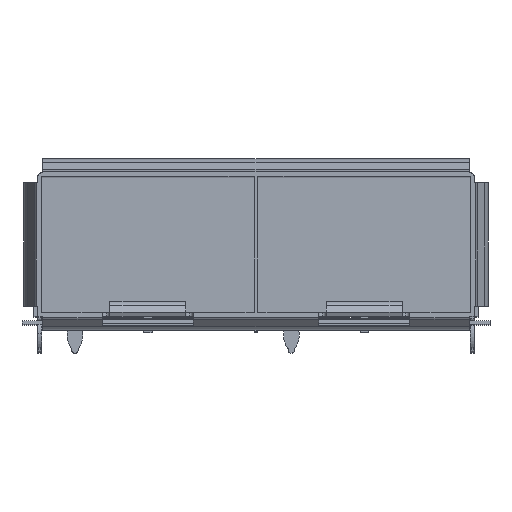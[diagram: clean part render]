
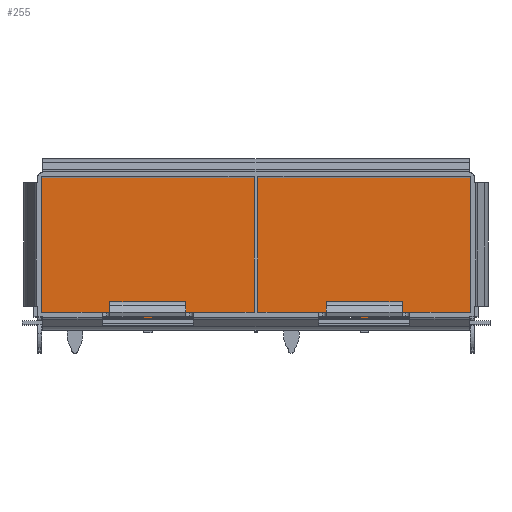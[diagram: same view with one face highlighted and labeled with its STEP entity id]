
A CAD part, top view. The second image highlights one B-rep face of the part: STEP entity #255.
In plain terms, the highlighted planar face has unit normal (0, 0, 1).
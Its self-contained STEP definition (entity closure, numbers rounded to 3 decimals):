
#255=ADVANCED_FACE('',(#959),#689,.F.);
#689=PLANE('',#8813);
#959=FACE_OUTER_BOUND('',#1390,.T.);
#1390=EDGE_LOOP('',(#2256,#2257,#2258,#2259,#2260,#2261,#2262,#2263,#2264,
#2265,#2266,#2267,#2268,#2269,#2270,#2271,#2272,#2273,#2274,#2275,#2276,
#2277,#2278,#2279,#2280,#2281,#2282,#2283,#2284,#2285));
#1874=CIRCLE('',#8807,0.05);
#1875=CIRCLE('',#8808,0.05);
#1876=CIRCLE('',#8809,0.2);
#1877=CIRCLE('',#8810,0.2);
#1878=CIRCLE('',#8811,0.2);
#1879=CIRCLE('',#8812,0.2);
#2256=ORIENTED_EDGE('',*,*,#5670,.F.);
#2257=ORIENTED_EDGE('',*,*,#5671,.F.);
#2258=ORIENTED_EDGE('',*,*,#5672,.T.);
#2259=ORIENTED_EDGE('',*,*,#5673,.T.);
#2260=ORIENTED_EDGE('',*,*,#5674,.T.);
#2261=ORIENTED_EDGE('',*,*,#5675,.T.);
#2262=ORIENTED_EDGE('',*,*,#5676,.F.);
#2263=ORIENTED_EDGE('',*,*,#5677,.F.);
#2264=ORIENTED_EDGE('',*,*,#5678,.F.);
#2265=ORIENTED_EDGE('',*,*,#5679,.T.);
#2266=ORIENTED_EDGE('',*,*,#5680,.T.);
#2267=ORIENTED_EDGE('',*,*,#5681,.T.);
#2268=ORIENTED_EDGE('',*,*,#5682,.T.);
#2269=ORIENTED_EDGE('',*,*,#5683,.F.);
#2270=ORIENTED_EDGE('',*,*,#5684,.F.);
#2271=ORIENTED_EDGE('',*,*,#5685,.F.);
#2272=ORIENTED_EDGE('',*,*,#5686,.F.);
#2273=ORIENTED_EDGE('',*,*,#5687,.F.);
#2274=ORIENTED_EDGE('',*,*,#5688,.T.);
#2275=ORIENTED_EDGE('',*,*,#5689,.F.);
#2276=ORIENTED_EDGE('',*,*,#5690,.F.);
#2277=ORIENTED_EDGE('',*,*,#5691,.F.);
#2278=ORIENTED_EDGE('',*,*,#5692,.T.);
#2279=ORIENTED_EDGE('',*,*,#5693,.F.);
#2280=ORIENTED_EDGE('',*,*,#5694,.F.);
#2281=ORIENTED_EDGE('',*,*,#5695,.F.);
#2282=ORIENTED_EDGE('',*,*,#5696,.F.);
#2283=ORIENTED_EDGE('',*,*,#5697,.F.);
#2284=ORIENTED_EDGE('',*,*,#5698,.T.);
#2285=ORIENTED_EDGE('',*,*,#5699,.F.);
#4820=VERTEX_POINT('',#12167);
#4821=VERTEX_POINT('',#12168);
#4822=VERTEX_POINT('',#12170);
#4823=VERTEX_POINT('',#12172);
#4824=VERTEX_POINT('',#12174);
#4825=VERTEX_POINT('',#12176);
#4826=VERTEX_POINT('',#12178);
#4827=VERTEX_POINT('',#12180);
#4828=VERTEX_POINT('',#12182);
#4829=VERTEX_POINT('',#12184);
#4830=VERTEX_POINT('',#12186);
#4831=VERTEX_POINT('',#12188);
#4832=VERTEX_POINT('',#12190);
#4833=VERTEX_POINT('',#12192);
#4834=VERTEX_POINT('',#12194);
#4835=VERTEX_POINT('',#12196);
#4836=VERTEX_POINT('',#12198);
#4837=VERTEX_POINT('',#12200);
#4838=VERTEX_POINT('',#12202);
#4839=VERTEX_POINT('',#12204);
#4840=VERTEX_POINT('',#12206);
#4841=VERTEX_POINT('',#12208);
#4842=VERTEX_POINT('',#12210);
#4843=VERTEX_POINT('',#12212);
#4844=VERTEX_POINT('',#12214);
#4845=VERTEX_POINT('',#12216);
#4846=VERTEX_POINT('',#12218);
#4847=VERTEX_POINT('',#12220);
#4848=VERTEX_POINT('',#12222);
#4849=VERTEX_POINT('',#12224);
#5670=EDGE_CURVE('',#4820,#4821,#6944,.T.);
#5671=EDGE_CURVE('',#4822,#4820,#6945,.T.);
#5672=EDGE_CURVE('',#4822,#4823,#6946,.T.);
#5673=EDGE_CURVE('',#4823,#4824,#6947,.T.);
#5674=EDGE_CURVE('',#4824,#4825,#1874,.T.);
#5675=EDGE_CURVE('',#4825,#4826,#6948,.T.);
#5676=EDGE_CURVE('',#4827,#4826,#6949,.T.);
#5677=EDGE_CURVE('',#4828,#4827,#6950,.T.);
#5678=EDGE_CURVE('',#4829,#4828,#6951,.T.);
#5679=EDGE_CURVE('',#4829,#4830,#6952,.T.);
#5680=EDGE_CURVE('',#4830,#4831,#1875,.T.);
#5681=EDGE_CURVE('',#4831,#4832,#6953,.T.);
#5682=EDGE_CURVE('',#4832,#4833,#6954,.T.);
#5683=EDGE_CURVE('',#4834,#4833,#6955,.T.);
#5684=EDGE_CURVE('',#4835,#4834,#1876,.T.);
#5685=EDGE_CURVE('',#4836,#4835,#6956,.T.);
#5686=EDGE_CURVE('',#4837,#4836,#1877,.T.);
#5687=EDGE_CURVE('',#4838,#4837,#6957,.T.);
#5688=EDGE_CURVE('',#4838,#4839,#6958,.T.);
#5689=EDGE_CURVE('',#4840,#4839,#6959,.T.);
#5690=EDGE_CURVE('',#4841,#4840,#6960,.T.);
#5691=EDGE_CURVE('',#4842,#4841,#6961,.T.);
#5692=EDGE_CURVE('',#4842,#4843,#6962,.T.);
#5693=EDGE_CURVE('',#4844,#4843,#6963,.T.);
#5694=EDGE_CURVE('',#4845,#4844,#1878,.T.);
#5695=EDGE_CURVE('',#4846,#4845,#6964,.T.);
#5696=EDGE_CURVE('',#4847,#4846,#1879,.T.);
#5697=EDGE_CURVE('',#4848,#4847,#6965,.T.);
#5698=EDGE_CURVE('',#4848,#4849,#6966,.T.);
#5699=EDGE_CURVE('',#4821,#4849,#6967,.T.);
#6944=LINE('',#12166,#7896);
#6945=LINE('',#12169,#7897);
#6946=LINE('',#12171,#7898);
#6947=LINE('',#12173,#7899);
#6948=LINE('',#12177,#7900);
#6949=LINE('',#12179,#7901);
#6950=LINE('',#12181,#7902);
#6951=LINE('',#12183,#7903);
#6952=LINE('',#12185,#7904);
#6953=LINE('',#12189,#7905);
#6954=LINE('',#12191,#7906);
#6955=LINE('',#12193,#7907);
#6956=LINE('',#12197,#7908);
#6957=LINE('',#12201,#7909);
#6958=LINE('',#12203,#7910);
#6959=LINE('',#12205,#7911);
#6960=LINE('',#12207,#7912);
#6961=LINE('',#12209,#7913);
#6962=LINE('',#12211,#7914);
#6963=LINE('',#12213,#7915);
#6964=LINE('',#12217,#7916);
#6965=LINE('',#12221,#7917);
#6966=LINE('',#12223,#7918);
#6967=LINE('',#12225,#7919);
#7896=VECTOR('',#9635,1.);
#7897=VECTOR('',#9636,1.);
#7898=VECTOR('',#9637,1.);
#7899=VECTOR('',#9638,1.);
#7900=VECTOR('',#9641,1.);
#7901=VECTOR('',#9642,1.);
#7902=VECTOR('',#9643,1.);
#7903=VECTOR('',#9644,1.);
#7904=VECTOR('',#9645,1.);
#7905=VECTOR('',#9648,1.);
#7906=VECTOR('',#9649,1.);
#7907=VECTOR('',#9650,1.);
#7908=VECTOR('',#9653,1.);
#7909=VECTOR('',#9656,1.);
#7910=VECTOR('',#9657,1.);
#7911=VECTOR('',#9658,1.);
#7912=VECTOR('',#9659,1.);
#7913=VECTOR('',#9660,1.);
#7914=VECTOR('',#9661,1.);
#7915=VECTOR('',#9662,1.);
#7916=VECTOR('',#9665,1.);
#7917=VECTOR('',#9668,1.);
#7918=VECTOR('',#9669,1.);
#7919=VECTOR('',#9670,1.);
#8807=AXIS2_PLACEMENT_3D('',#12175,#9639,#9640);
#8808=AXIS2_PLACEMENT_3D('',#12187,#9646,#9647);
#8809=AXIS2_PLACEMENT_3D('',#12195,#9651,#9652);
#8810=AXIS2_PLACEMENT_3D('',#12199,#9654,#9655);
#8811=AXIS2_PLACEMENT_3D('',#12215,#9663,#9664);
#8812=AXIS2_PLACEMENT_3D('',#12219,#9666,#9667);
#8813=AXIS2_PLACEMENT_3D('',#12226,#9671,#9672);
#9635=DIRECTION('',(-1.,0.,0.));
#9636=DIRECTION('',(0.,-1.,0.));
#9637=DIRECTION('',(1.,0.,0.));
#9638=DIRECTION('',(0.,1.,0.));
#9639=DIRECTION('',(0.,0.,1.));
#9640=DIRECTION('',(-1.,0.,0.));
#9641=DIRECTION('',(-1.,0.,0.));
#9642=DIRECTION('',(0.,1.,0.));
#9643=DIRECTION('',(1.,0.,0.));
#9644=DIRECTION('',(0.,-1.,0.));
#9645=DIRECTION('',(-1.,0.,0.));
#9646=DIRECTION('',(0.,0.,1.));
#9647=DIRECTION('',(-1.,0.,0.));
#9648=DIRECTION('',(0.,-1.,0.));
#9649=DIRECTION('',(1.,0.,0.));
#9650=DIRECTION('',(0.,1.,0.));
#9651=DIRECTION('',(0.,0.,-1.));
#9652=DIRECTION('',(1.,0.,0.));
#9653=DIRECTION('',(-1.,0.,0.));
#9654=DIRECTION('',(0.,0.,-1.));
#9655=DIRECTION('',(-1.,0.,0.));
#9656=DIRECTION('',(0.,-1.,0.));
#9657=DIRECTION('',(1.,0.,0.));
#9658=DIRECTION('',(0.,1.,0.));
#9659=DIRECTION('',(-1.,0.,0.));
#9660=DIRECTION('',(0.,-1.,0.));
#9661=DIRECTION('',(1.,0.,0.));
#9662=DIRECTION('',(0.,1.,0.));
#9663=DIRECTION('',(0.,0.,-1.));
#9664=DIRECTION('',(1.,0.,0.));
#9665=DIRECTION('',(-1.,0.,0.));
#9666=DIRECTION('',(0.,0.,-1.));
#9667=DIRECTION('',(-1.,0.,0.));
#9668=DIRECTION('',(0.,-1.,0.));
#9669=DIRECTION('',(1.,0.,0.));
#9670=DIRECTION('',(0.,1.,0.));
#9671=DIRECTION('',(0.,0.,-1.));
#9672=DIRECTION('',(1.,0.,0.));
#12166=CARTESIAN_POINT('',(0.,-0.3,-48.5));
#12167=CARTESIAN_POINT('',(7.405,-0.3,-48.5));
#12168=CARTESIAN_POINT('',(6.855,-0.3,-48.5));
#12169=CARTESIAN_POINT('',(7.405,0.,-48.5));
#12170=CARTESIAN_POINT('',(7.405,0.,-48.5));
#12171=CARTESIAN_POINT('',(-14.125,0.,-48.5));
#12172=CARTESIAN_POINT('',(14.125,0.,-48.5));
#12173=CARTESIAN_POINT('',(14.125,0.25,-48.5));
#12174=CARTESIAN_POINT('',(14.125,9.15,-48.5));
#12175=CARTESIAN_POINT('',(14.075,9.15,-48.5));
#12176=CARTESIAN_POINT('',(14.075,9.2,-48.5));
#12177=CARTESIAN_POINT('',(14.075,9.2,-48.5));
#12178=CARTESIAN_POINT('',(0.125,9.2,-48.5));
#12179=CARTESIAN_POINT('',(0.125,9.2,-48.5));
#12180=CARTESIAN_POINT('',(0.125,0.25,-48.5));
#12181=CARTESIAN_POINT('',(0.125,0.25,-48.5));
#12182=CARTESIAN_POINT('',(-0.125,0.25,-48.5));
#12183=CARTESIAN_POINT('',(-0.125,9.2,-48.5));
#12184=CARTESIAN_POINT('',(-0.125,9.2,-48.5));
#12185=CARTESIAN_POINT('',(14.075,9.2,-48.5));
#12186=CARTESIAN_POINT('',(-14.075,9.2,-48.5));
#12187=CARTESIAN_POINT('',(-14.075,9.15,-48.5));
#12188=CARTESIAN_POINT('',(-14.125,9.15,-48.5));
#12189=CARTESIAN_POINT('',(-14.125,9.15,-48.5));
#12190=CARTESIAN_POINT('',(-14.125,0.,-48.5));
#12191=CARTESIAN_POINT('',(-14.125,0.,-48.5));
#12192=CARTESIAN_POINT('',(-12.92,0.,-48.5));
#12193=CARTESIAN_POINT('',(-12.92,0.25,-48.5));
#12194=CARTESIAN_POINT('',(-12.92,-0.1,-48.5));
#12195=CARTESIAN_POINT('',(-12.72,-0.1,-48.5));
#12196=CARTESIAN_POINT('',(-12.72,-0.3,-48.5));
#12197=CARTESIAN_POINT('',(-12.72,-0.3,-48.5));
#12198=CARTESIAN_POINT('',(-11.12,-0.3,-48.5));
#12199=CARTESIAN_POINT('',(-11.12,-0.1,-48.5));
#12200=CARTESIAN_POINT('',(-10.92,-0.1,-48.5));
#12201=CARTESIAN_POINT('',(-10.92,0.25,-48.5));
#12202=CARTESIAN_POINT('',(-10.92,0.,-48.5));
#12203=CARTESIAN_POINT('',(-14.125,0.,-48.5));
#12204=CARTESIAN_POINT('',(-7.395,0.,-48.5));
#12205=CARTESIAN_POINT('',(-7.395,0.,-48.5));
#12206=CARTESIAN_POINT('',(-7.395,-0.3,-48.5));
#12207=CARTESIAN_POINT('',(0.,-0.3,-48.5));
#12208=CARTESIAN_POINT('',(-6.845,-0.3,-48.5));
#12209=CARTESIAN_POINT('',(-6.845,0.,-48.5));
#12210=CARTESIAN_POINT('',(-6.845,0.,-48.5));
#12211=CARTESIAN_POINT('',(-14.125,0.,-48.5));
#12212=CARTESIAN_POINT('',(1.33,0.,-48.5));
#12213=CARTESIAN_POINT('',(1.33,0.25,-48.5));
#12214=CARTESIAN_POINT('',(1.33,-0.1,-48.5));
#12215=CARTESIAN_POINT('',(1.53,-0.1,-48.5));
#12216=CARTESIAN_POINT('',(1.53,-0.3,-48.5));
#12217=CARTESIAN_POINT('',(1.53,-0.3,-48.5));
#12218=CARTESIAN_POINT('',(3.13,-0.3,-48.5));
#12219=CARTESIAN_POINT('',(3.13,-0.1,-48.5));
#12220=CARTESIAN_POINT('',(3.33,-0.1,-48.5));
#12221=CARTESIAN_POINT('',(3.33,0.25,-48.5));
#12222=CARTESIAN_POINT('',(3.33,0.,-48.5));
#12223=CARTESIAN_POINT('',(-14.125,0.,-48.5));
#12224=CARTESIAN_POINT('',(6.855,0.,-48.5));
#12225=CARTESIAN_POINT('',(6.855,0.,-48.5));
#12226=CARTESIAN_POINT('',(0.,0.,-48.5));
